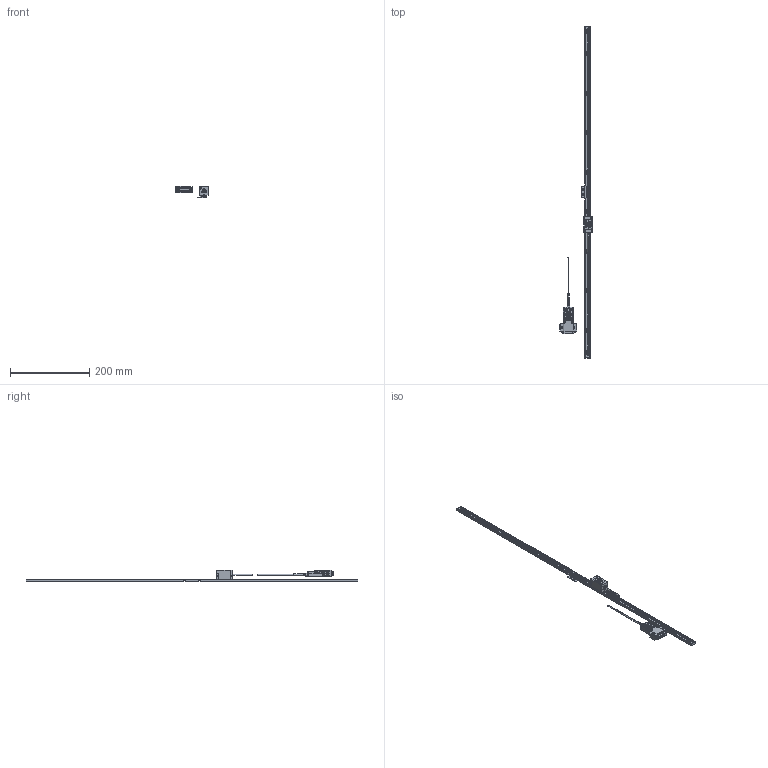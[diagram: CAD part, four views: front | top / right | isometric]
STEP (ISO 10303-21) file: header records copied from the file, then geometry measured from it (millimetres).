
FILE_DESCRIPTION(('Creo Elements/Direct Modeling STEP Export'),'2;1');
FILE_NAME('ST1300-800F_G.stp','2022-08-16T10:16:41',(''),(''),'Creo Elements/Direct Modeling STEP processor for AP214 (Solid Model)','Creo Elements/Direct Modeling 18.1I 13-Aug-2016 (C) Parametric Technology GmbH','');
FILE_SCHEMA(('AUTOMOTIVE_DESIGN { 1 0 10303 214 1 1 1 1 }'));
Length unit declared in the file: millimetre
Products named in the file (4): Scale_800; Connector; Detector_Head; ST1300-800F_G
Assembly tree (3 placements, depth 2):
  ST1300-800F_G
    Detector_Head
    Connector
    Scale_800
Bounding box: 83 x 840 x 30.1 mm (x, y, z)
Volume: 88388.8 mm3; surface area: 56819.9 mm2
Topology: 2 solids, 6 shells, 3465 faces, 9554 edges, 6237 vertices
Faces by surface type: plane 1640, cylinder 1531, extrusion 154, cone 87, torus 26, bspline 23, revolution 4
Entity records: 115827 total; most frequent: CARTESIAN_POINT 26585, ORIENTED_EDGE 19092, DIRECTION 18109, EDGE_CURVE 9542, VERTEX_POINT 6237, AXIS2_PLACEMENT_3D 6109, VECTOR 5885, LINE 5761
